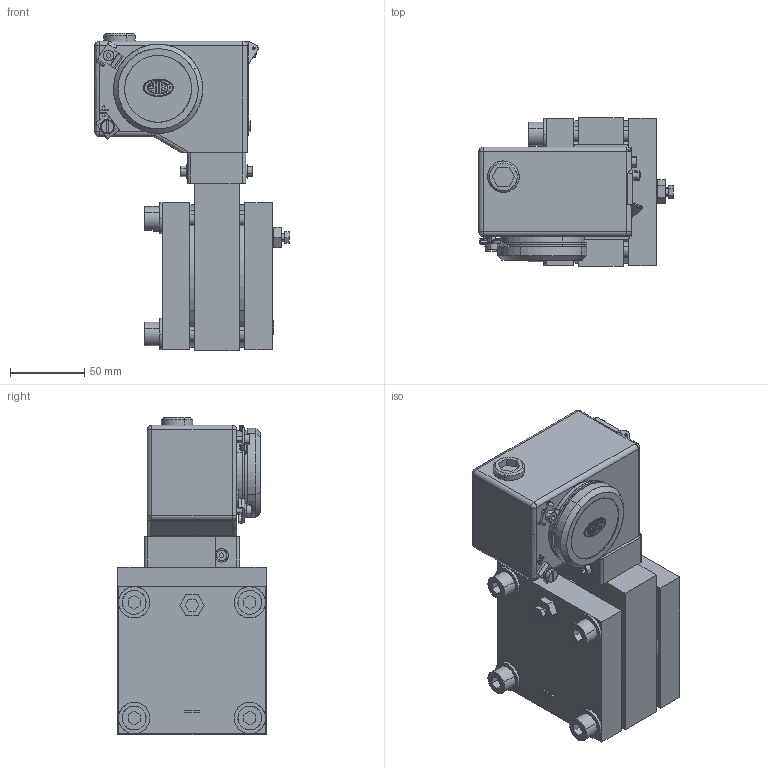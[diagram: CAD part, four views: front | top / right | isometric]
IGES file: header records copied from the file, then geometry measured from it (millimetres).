
Global section: file name: D:\temp\DC01A1S-1.igs; native system: MATRA-DATAVISION EUCLID3; preprocessor: IGES-I-E32.4A00; date: 20090522.143400; units: millimetre
Bounding box: 130.64 x 100 x 213.22 mm (x, y, z)
Surface area: 110728.7 mm2 (no closed solid volume)
Topology: 0 solids, 0 shells, 737 faces, 4108 edges, 4099 vertices
Faces by surface type: revolution 423, bspline 314
